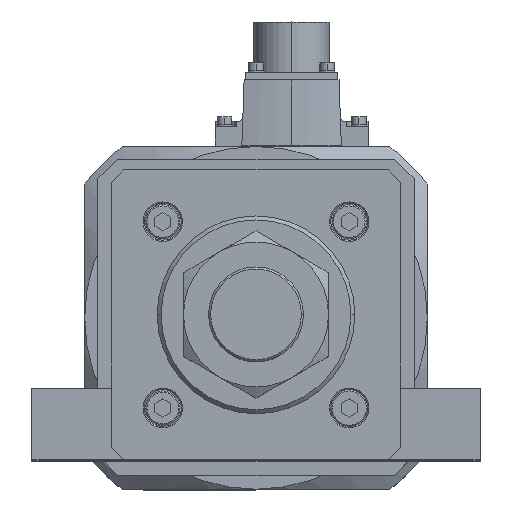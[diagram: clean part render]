
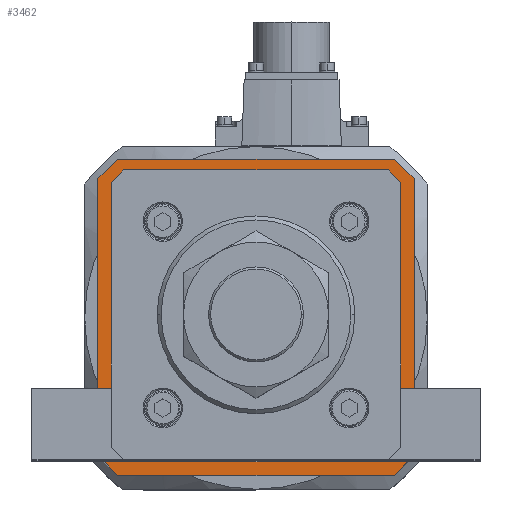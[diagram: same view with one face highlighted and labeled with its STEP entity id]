
A CAD part, top view. The second image highlights one B-rep face of the part: STEP entity #3462.
In plain terms, the highlighted planar face has unit normal (0, 0, 1).
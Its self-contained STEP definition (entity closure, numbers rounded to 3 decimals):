
#779 = ORIENTED_EDGE ( 'NONE', *, *, #2465, .F. ) ;
#971 = CARTESIAN_POINT ( 'NONE',  ( 49.593, 53.5, -119. ) ) ;
#1175 = EDGE_CURVE ( 'NONE', #9220, #2898, #21528, .T. ) ;
#1231 = CARTESIAN_POINT ( 'NONE',  ( -52.5, -60., -119. ) ) ;
#1295 = CARTESIAN_POINT ( 'NONE',  ( -49.446, 53.646, -119. ) ) ;
#1422 = DIRECTION ( 'NONE',  ( 1., 0., 0. ) ) ;
#1691 = CARTESIAN_POINT ( 'NONE',  ( -53.5, 49.593, -119. ) ) ;
#2018 = CARTESIAN_POINT ( 'NONE',  ( 53.5, -49.593, -119. ) ) ;
#2206 = CARTESIAN_POINT ( 'NONE',  ( -53.646, -49.446, -119. ) ) ;
#2378 = VERTEX_POINT ( 'NONE', #27454 ) ;
#2465 = EDGE_CURVE ( 'NONE', #17006, #24995, #25519, .T. ) ;
#2898 = VERTEX_POINT ( 'NONE', #1691 ) ;
#3242 = ORIENTED_EDGE ( 'NONE', *, *, #29879, .F. ) ;
#3462 = ADVANCED_FACE ( 'NONE', ( #15925, #18619 ), #27847, .T. ) ;
#3469 = DIRECTION ( 'NONE',  ( -0.707, -0.707, 0. ) ) ;
#3720 = EDGE_CURVE ( 'NONE', #7533, #34565, #10861, .T. ) ;
#4891 = ORIENTED_EDGE ( 'NONE', *, *, #3720, .T. ) ;
#5003 = CARTESIAN_POINT ( 'NONE',  ( 0., 0., -119. ) ) ;
#5133 = VECTOR ( 'NONE', #5777, 1000. ) ;
#5156 = CARTESIAN_POINT ( 'NONE',  ( 60., -52.5, -119. ) ) ;
#5777 = DIRECTION ( 'NONE',  ( -1., 0., 0. ) ) ;
#6100 = VERTEX_POINT ( 'NONE', #37140 ) ;
#6162 = DIRECTION ( 'NONE',  ( 0., 1., 0. ) ) ;
#6208 = DIRECTION ( 'NONE',  ( 0.707, 0.707, 0. ) ) ;
#6367 = VERTEX_POINT ( 'NONE', #971 ) ;
#6695 = VECTOR ( 'NONE', #21602, 1000. ) ;
#7318 = LINE ( 'NONE', #7404, #22342 ) ;
#7322 = LINE ( 'NONE', #1295, #29691 ) ;
#7404 = CARTESIAN_POINT ( 'NONE',  ( 49.8, 53.5, -119. ) ) ;
#7533 = VERTEX_POINT ( 'NONE', #11997 ) ;
#7596 = EDGE_CURVE ( 'NONE', #21868, #17006, #17737, .T. ) ;
#8397 = LINE ( 'NONE', #2206, #37528 ) ;
#8509 = EDGE_CURVE ( 'NONE', #6100, #22874, #34970, .T. ) ;
#8725 = LINE ( 'NONE', #19782, #19167 ) ;
#8776 = CARTESIAN_POINT ( 'NONE',  ( -60., -52.5, -119. ) ) ;
#8893 = EDGE_CURVE ( 'NONE', #24995, #6100, #36745, .T. ) ;
#9220 = VERTEX_POINT ( 'NONE', #13131 ) ;
#9292 = EDGE_CURVE ( 'NONE', #2378, #30665, #26301, .T. ) ;
#9468 = CARTESIAN_POINT ( 'NONE',  ( 60., 52.5, -119. ) ) ;
#9618 = DIRECTION ( 'NONE',  ( 0.707, -0.707, 0. ) ) ;
#10418 = DIRECTION ( 'NONE',  ( 1., 0., 0. ) ) ;
#10478 = LINE ( 'NONE', #12685, #18199 ) ;
#10696 = ORIENTED_EDGE ( 'NONE', *, *, #13226, .T. ) ;
#10768 = DIRECTION ( 'NONE',  ( 0., 0., 1. ) ) ;
#10830 = LINE ( 'NONE', #32534, #20369 ) ;
#10861 = LINE ( 'NONE', #23195, #36817 ) ;
#10997 = LINE ( 'NONE', #9468, #33305 ) ;
#11010 = CARTESIAN_POINT ( 'NONE',  ( 49.593, -53.5, -119. ) ) ;
#11906 = CARTESIAN_POINT ( 'NONE',  ( -49.8, -53.5, -119. ) ) ;
#11997 = CARTESIAN_POINT ( 'NONE',  ( 53.5, 49.593, -119. ) ) ;
#12247 = CARTESIAN_POINT ( 'NONE',  ( 52.5, 60., -119. ) ) ;
#12685 = CARTESIAN_POINT ( 'NONE',  ( 60., 52.5, -119. ) ) ;
#13131 = CARTESIAN_POINT ( 'NONE',  ( -53.5, -49.593, -119. ) ) ;
#13226 = EDGE_CURVE ( 'NONE', #2898, #32074, #7322, .T. ) ;
#13654 = CARTESIAN_POINT ( 'NONE',  ( 52.5, -60., -119. ) ) ;
#13849 = VECTOR ( 'NONE', #35550, 1000. ) ;
#13932 = EDGE_CURVE ( 'NONE', #27809, #9220, #8397, .T. ) ;
#14106 = DIRECTION ( 'NONE',  ( 0.707, -0.707, 0. ) ) ;
#14576 = ORIENTED_EDGE ( 'NONE', *, *, #32741, .T. ) ;
#15925 = FACE_BOUND ( 'NONE', #17299, .T. ) ;
#15929 = EDGE_CURVE ( 'NONE', #26569, #2378, #10997, .T. ) ;
#16059 = CARTESIAN_POINT ( 'NONE',  ( -52.5, -60., -119. ) ) ;
#17006 = VERTEX_POINT ( 'NONE', #8776 ) ;
#17062 = DIRECTION ( 'NONE',  ( -0.707, -0.707, 0. ) ) ;
#17299 = EDGE_LOOP ( 'NONE', ( #14576, #22085, #4891, #33622, #20414, #36207, #20637, #10696 ) ) ;
#17737 = LINE ( 'NONE', #16059, #32746 ) ;
#18199 = VECTOR ( 'NONE', #9618, 1000. ) ;
#18619 = FACE_OUTER_BOUND ( 'NONE', #25161, .T. ) ;
#19167 = VECTOR ( 'NONE', #14106, 1000. ) ;
#19560 = AXIS2_PLACEMENT_3D ( 'NONE', #5003, #10768, #10418 ) ;
#19756 = CARTESIAN_POINT ( 'NONE',  ( 60., 52.5, -119. ) ) ;
#19782 = CARTESIAN_POINT ( 'NONE',  ( 53.646, 49.446, -119. ) ) ;
#20330 = VECTOR ( 'NONE', #6208, 1000. ) ;
#20369 = VECTOR ( 'NONE', #3469, 1000. ) ;
#20414 = ORIENTED_EDGE ( 'NONE', *, *, #35400, .T. ) ;
#20637 = ORIENTED_EDGE ( 'NONE', *, *, #1175, .T. ) ;
#21234 = CARTESIAN_POINT ( 'NONE',  ( -53.5, 49.8, -119. ) ) ;
#21528 = LINE ( 'NONE', #21234, #13849 ) ;
#21602 = DIRECTION ( 'NONE',  ( 1., 0., 0. ) ) ;
#21868 = VERTEX_POINT ( 'NONE', #1231 ) ;
#22085 = ORIENTED_EDGE ( 'NONE', *, *, #22166, .T. ) ;
#22166 = EDGE_CURVE ( 'NONE', #6367, #7533, #8725, .T. ) ;
#22342 = VECTOR ( 'NONE', #1422, 1000. ) ;
#22363 = ORIENTED_EDGE ( 'NONE', *, *, #9292, .F. ) ;
#22874 = VERTEX_POINT ( 'NONE', #29597 ) ;
#23195 = CARTESIAN_POINT ( 'NONE',  ( 53.5, -49.8, -119. ) ) ;
#23500 = VECTOR ( 'NONE', #17062, 1000. ) ;
#23557 = ORIENTED_EDGE ( 'NONE', *, *, #8893, .F. ) ;
#23649 = CARTESIAN_POINT ( 'NONE',  ( -52.5, 60., -119. ) ) ;
#24234 = CARTESIAN_POINT ( 'NONE',  ( -49.593, -53.5, -119. ) ) ;
#24281 = EDGE_CURVE ( 'NONE', #34565, #36939, #10830, .T. ) ;
#24995 = VERTEX_POINT ( 'NONE', #37125 ) ;
#25161 = EDGE_LOOP ( 'NONE', ( #29326, #23557, #779, #31340, #33699, #22363, #37068, #3242 ) ) ;
#25482 = DIRECTION ( 'NONE',  ( -0.707, 0.707, 0. ) ) ;
#25519 = LINE ( 'NONE', #34976, #30583 ) ;
#26026 = CARTESIAN_POINT ( 'NONE',  ( 52.5, -60., -119. ) ) ;
#26301 = LINE ( 'NONE', #5156, #23500 ) ;
#26569 = VERTEX_POINT ( 'NONE', #19756 ) ;
#26743 = DIRECTION ( 'NONE',  ( 0.707, 0.707, 0. ) ) ;
#27261 = DIRECTION ( 'NONE',  ( 0., -1., 0. ) ) ;
#27454 = CARTESIAN_POINT ( 'NONE',  ( 60., -52.5, -119. ) ) ;
#27809 = VERTEX_POINT ( 'NONE', #24234 ) ;
#27847 = PLANE ( 'NONE',  #19560 ) ;
#29326 = ORIENTED_EDGE ( 'NONE', *, *, #8509, .F. ) ;
#29492 = DIRECTION ( 'NONE',  ( 0., -1., 0. ) ) ;
#29597 = CARTESIAN_POINT ( 'NONE',  ( 52.5, 60., -119. ) ) ;
#29691 = VECTOR ( 'NONE', #26743, 1000. ) ;
#29879 = EDGE_CURVE ( 'NONE', #22874, #26569, #10478, .T. ) ;
#30270 = LINE ( 'NONE', #26026, #5133 ) ;
#30583 = VECTOR ( 'NONE', #6162, 1000. ) ;
#30665 = VERTEX_POINT ( 'NONE', #13654 ) ;
#31340 = ORIENTED_EDGE ( 'NONE', *, *, #7596, .F. ) ;
#31379 = EDGE_CURVE ( 'NONE', #30665, #21868, #30270, .T. ) ;
#32074 = VERTEX_POINT ( 'NONE', #37741 ) ;
#32222 = LINE ( 'NONE', #11906, #33122 ) ;
#32262 = DIRECTION ( 'NONE',  ( -1., 0., 0. ) ) ;
#32534 = CARTESIAN_POINT ( 'NONE',  ( 49.446, -53.646, -119. ) ) ;
#32741 = EDGE_CURVE ( 'NONE', #32074, #6367, #7318, .T. ) ;
#32746 = VECTOR ( 'NONE', #33474, 1000. ) ;
#33122 = VECTOR ( 'NONE', #32262, 1000. ) ;
#33305 = VECTOR ( 'NONE', #27261, 1000. ) ;
#33474 = DIRECTION ( 'NONE',  ( -0.707, 0.707, 0. ) ) ;
#33622 = ORIENTED_EDGE ( 'NONE', *, *, #24281, .T. ) ;
#33699 = ORIENTED_EDGE ( 'NONE', *, *, #31379, .F. ) ;
#34565 = VERTEX_POINT ( 'NONE', #2018 ) ;
#34970 = LINE ( 'NONE', #12247, #6695 ) ;
#34976 = CARTESIAN_POINT ( 'NONE',  ( -60., 52.5, -119. ) ) ;
#35400 = EDGE_CURVE ( 'NONE', #36939, #27809, #32222, .T. ) ;
#35550 = DIRECTION ( 'NONE',  ( 0., 1., 0. ) ) ;
#36207 = ORIENTED_EDGE ( 'NONE', *, *, #13932, .T. ) ;
#36745 = LINE ( 'NONE', #23649, #20330 ) ;
#36817 = VECTOR ( 'NONE', #29492, 1000. ) ;
#36939 = VERTEX_POINT ( 'NONE', #11010 ) ;
#37068 = ORIENTED_EDGE ( 'NONE', *, *, #15929, .F. ) ;
#37125 = CARTESIAN_POINT ( 'NONE',  ( -60., 52.5, -119. ) ) ;
#37140 = CARTESIAN_POINT ( 'NONE',  ( -52.5, 60., -119. ) ) ;
#37528 = VECTOR ( 'NONE', #25482, 1000. ) ;
#37741 = CARTESIAN_POINT ( 'NONE',  ( -49.593, 53.5, -119. ) ) ;
